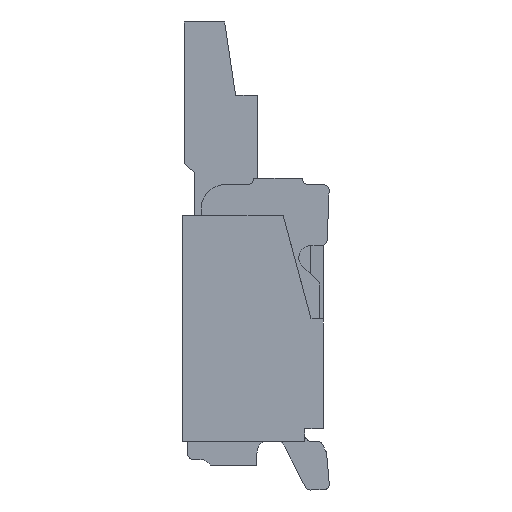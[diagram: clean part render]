
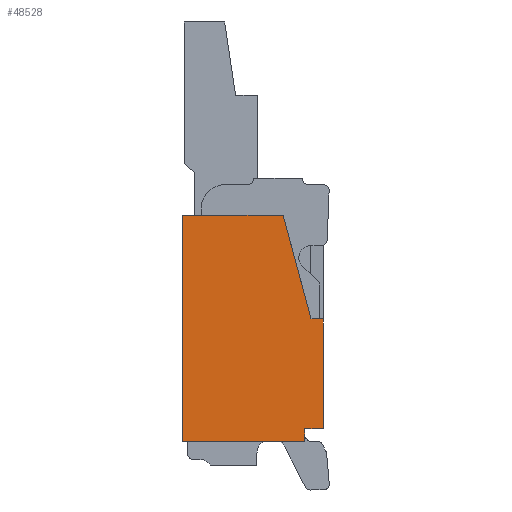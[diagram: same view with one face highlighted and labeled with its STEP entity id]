
A CAD part, left-side view. The second image highlights one B-rep face of the part: STEP entity #48528.
In plain terms, the highlighted planar face has unit normal (-1, 0, 0).
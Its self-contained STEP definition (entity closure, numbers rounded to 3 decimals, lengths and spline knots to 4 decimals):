
#1=DIRECTION('',(0.,0.,-1.));
#2=VECTOR('',#1,0.9);
#3=CARTESIAN_POINT('',(-14.35,-0.575,-0.05));
#4=LINE('',#3,#2);
#177=DIRECTION('',(0.,1.,0.));
#178=VECTOR('',#177,0.15);
#179=CARTESIAN_POINT('',(-14.35,-0.575,-0.95));
#180=LINE('',#179,#178);
#349=DIRECTION('',(0.,1.,0.));
#350=VECTOR('',#349,1.);
#351=CARTESIAN_POINT('',(-14.35,-0.425,-1.05));
#352=LINE('',#351,#350);
#1137=DIRECTION('',(0.,0.,1.));
#1138=VECTOR('',#1137,1.85);
#1139=CARTESIAN_POINT('',(-14.35,0.575,-1.05));
#1140=LINE('',#1139,#1138);
#1573=DIRECTION('',(0.,-1.,0.));
#1574=VECTOR('',#1573,0.1);
#1575=CARTESIAN_POINT('',(-14.35,-0.475,-0.05));
#1576=LINE('',#1575,#1574);
#1978=DIRECTION('',(0.,1.,0.));
#1979=VECTOR('',#1978,0.8222);
#1980=CARTESIAN_POINT('',(-14.35,-0.2472,0.8));
#1981=LINE('',#1980,#1979);
#1982=DIRECTION('',(0.,0.259,0.966));
#1983=VECTOR('',#1982,0.88);
#1984=CARTESIAN_POINT('',(-14.35,-0.475,-0.05));
#1985=LINE('',#1984,#1983);
#1986=DIRECTION('',(0.,0.,-1.));
#1987=VECTOR('',#1986,0.1);
#1988=CARTESIAN_POINT('',(-14.35,-0.425,-0.95));
#1989=LINE('',#1988,#1987);
#41271=CARTESIAN_POINT('',(-14.35,-0.575,-0.05));
#41272=VERTEX_POINT('',#41271);
#41273=CARTESIAN_POINT('',(-14.35,-0.575,-0.95));
#41274=VERTEX_POINT('',#41273);
#41285=CARTESIAN_POINT('',(-14.35,-0.425,-0.95));
#41286=VERTEX_POINT('',#41285);
#41671=CARTESIAN_POINT('',(-14.35,-0.425,-1.05));
#41672=VERTEX_POINT('',#41671);
#41673=CARTESIAN_POINT('',(-14.35,0.575,-1.05));
#41674=VERTEX_POINT('',#41673);
#41685=CARTESIAN_POINT('',(-14.35,0.575,0.8));
#41686=VERTEX_POINT('',#41685);
#45445=CARTESIAN_POINT('',(-14.35,-0.475,-0.05));
#45446=VERTEX_POINT('',#45445);
#45525=CARTESIAN_POINT('',(-14.35,-0.2472,0.8));
#45526=VERTEX_POINT('',#45525);
#48511=CARTESIAN_POINT('',(-14.35,0.,-0.125));
#48512=DIRECTION('',(1.,0.,0.));
#48513=DIRECTION('',(0.,0.,-1.));
#48514=AXIS2_PLACEMENT_3D('',#48511,#48512,#48513);
#48515=PLANE('',#48514);
#48516=ORIENTED_EDGE('',*,*,#48164,.T.);
#48517=ORIENTED_EDGE('',*,*,#46792,.T.);
#48518=ORIENTED_EDGE('',*,*,#46944,.T.);
#48520=ORIENTED_EDGE('',*,*,#48519,.T.);
#48521=ORIENTED_EDGE('',*,*,#47102,.T.);
#48522=ORIENTED_EDGE('',*,*,#47739,.T.);
#48524=ORIENTED_EDGE('',*,*,#48523,.F.);
#48525=ORIENTED_EDGE('',*,*,#48502,.F.);
#48526=EDGE_LOOP('',(#48516,#48517,#48518,#48520,#48521,#48522,#48524,#48525));
#48527=FACE_OUTER_BOUND('',#48526,.F.);
#46792=EDGE_CURVE('',#41272,#41274,#4,.T.);
#46944=EDGE_CURVE('',#41274,#41286,#180,.T.);
#47102=EDGE_CURVE('',#41672,#41674,#352,.T.);
#47739=EDGE_CURVE('',#41674,#41686,#1140,.T.);
#48164=EDGE_CURVE('',#45446,#41272,#1576,.T.);
#48502=EDGE_CURVE('',#45446,#45526,#1985,.T.);
#48519=EDGE_CURVE('',#41286,#41672,#1989,.T.);
#48523=EDGE_CURVE('',#45526,#41686,#1981,.T.);
#48528=ADVANCED_FACE('',(#48527),#48515,.F.);
